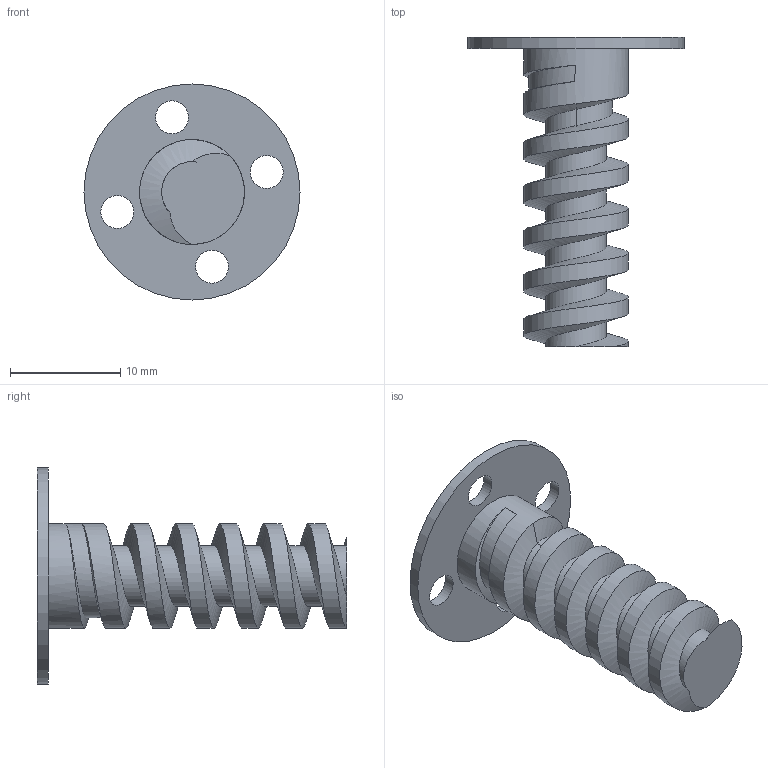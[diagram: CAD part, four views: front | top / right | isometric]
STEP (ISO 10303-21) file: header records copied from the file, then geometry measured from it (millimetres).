
FILE_DESCRIPTION(/* description */ ('STEP AP242 Edition 2','CAx-IF Rec.Pracs.---Representation and Presentation of Product Manufacturing Information (PMI)---4.0---2014-10-13','CAx-IF Rec.Pracs.---3D Tessellated Geometry---0.4---2014-09-14','2;1','CAx-IF Rec.Pracs.---User Defined Attributes---1.5---2016-08-15'),/* implementation_level */ '2;1');
FILE_NAME(/* name */ 'Assembly 1 - Servo',/* time_stamp */ '2026-08-25T12:56:59Z',/* author */ (''),/* organization */ (''),/* preprocessor_version */ 'ST-DEVELOPER v20',/* originating_system */ 'ONSHAPE BY PTC INC, 1.219',/* authorisation */ ' ');
FILE_SCHEMA (('AP242_MANAGED_MODEL_BASED_3D_ENGINEERING_MIM_LF { 1 0 10303 442 3 1 4 }'));
Length unit declared in the file: metre
Products named in the file (1): Servo
Bounding box: 19.58 x 28 x 19.58 mm (x, y, z)
Volume: 1562.2 mm3; surface area: 1754.4 mm2
Topology: 1 solids, 1 shells, 24 faces, 61 edges, 41 vertices
Faces by surface type: cylinder 14, plane 5, bspline 5
Full cylindrical faces by diameter (mm): 3 x4, 7 x1, 9.5 x6, 19.577 x1
Entity records: 1365 total; most frequent: CARTESIAN_POINT 984, DIRECTION 66, ORIENTED_EDGE 64, EDGE_LOOP 35, FACE_BOUND 35, EDGE_CURVE 32, AXIS2_PLACEMENT_3D 30, VERTEX_POINT 25
